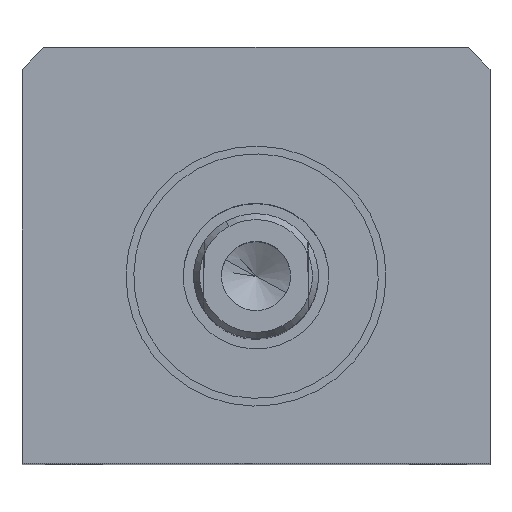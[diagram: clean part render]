
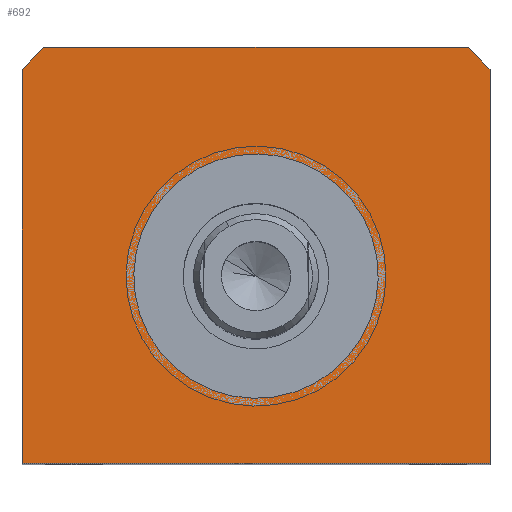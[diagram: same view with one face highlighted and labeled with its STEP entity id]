
A CAD part, top view. The second image highlights one B-rep face of the part: STEP entity #692.
In plain terms, the highlighted planar face has unit normal (0, 0, 1).
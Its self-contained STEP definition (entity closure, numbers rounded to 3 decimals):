
#119=CARTESIAN_POINT('Vertex',(22.5,-18.,73.)) ;
#124=CARTESIAN_POINT('Line Origine',(0.,-18.,73.)) ;
#128=CARTESIAN_POINT('Vertex',(-22.5,-18.,73.)) ;
#371=CARTESIAN_POINT('Vertex',(-5.633,10.312,73.)) ;
#378=CARTESIAN_POINT('Vertex',(5.633,-10.312,73.)) ;
#381=CARTESIAN_POINT('Axis2P3D Location',(0.,0.,73.)) ;
#393=CARTESIAN_POINT('Axis2P3D Location',(0.,0.,73.)) ;
#642=CARTESIAN_POINT('Axis2P3D Location',(0.,30.,73.)) ;
#647=CARTESIAN_POINT('Line Origine',(0.,22.,73.)) ;
#651=CARTESIAN_POINT('Vertex',(20.396,22.,73.)) ;
#653=CARTESIAN_POINT('Vertex',(-20.396,22.,73.)) ;
#656=CARTESIAN_POINT('Axis2P3D Location',(0.,0.,73.)) ;
#660=CARTESIAN_POINT('Vertex',(-22.5,19.843,73.)) ;
#663=CARTESIAN_POINT('Line Origine',(-22.5,0.922,73.)) ;
#668=CARTESIAN_POINT('Line Origine',(22.5,0.922,73.)) ;
#672=CARTESIAN_POINT('Vertex',(22.5,19.843,73.)) ;
#675=CARTESIAN_POINT('Axis2P3D Location',(0.,0.,73.)) ;
#125=DIRECTION('Vector Direction',(-1.,0.,0.)) ;
#382=DIRECTION('Axis2P3D Direction',(0.,0.,1.)) ;
#394=DIRECTION('Axis2P3D Direction',(0.,0.,1.)) ;
#643=DIRECTION('Axis2P3D Direction',(0.,0.,1.)) ;
#644=DIRECTION('Axis2P3D XDirection',(1.,0.,0.)) ;
#648=DIRECTION('Vector Direction',(1.,0.,0.)) ;
#657=DIRECTION('Axis2P3D Direction',(0.,0.,1.)) ;
#664=DIRECTION('Vector Direction',(0.,-1.,0.)) ;
#669=DIRECTION('Vector Direction',(0.,1.,0.)) ;
#676=DIRECTION('Axis2P3D Direction',(0.,0.,1.)) ;
#383=AXIS2_PLACEMENT_3D('Circle Axis2P3D',#381,#382,$) ;
#395=AXIS2_PLACEMENT_3D('Circle Axis2P3D',#393,#394,$) ;
#645=AXIS2_PLACEMENT_3D('Plane Axis2P3D',#642,#643,#644) ;
#658=AXIS2_PLACEMENT_3D('Circle Axis2P3D',#656,#657,$) ;
#677=AXIS2_PLACEMENT_3D('Circle Axis2P3D',#675,#676,$) ;
#681=ORIENTED_EDGE('',*,*,#655,.T.) ;
#682=ORIENTED_EDGE('',*,*,#662,.T.) ;
#683=ORIENTED_EDGE('',*,*,#667,.T.) ;
#684=ORIENTED_EDGE('',*,*,#130,.T.) ;
#685=ORIENTED_EDGE('',*,*,#674,.T.) ;
#686=ORIENTED_EDGE('',*,*,#679,.T.) ;
#689=ORIENTED_EDGE('',*,*,#397,.F.) ;
#690=ORIENTED_EDGE('',*,*,#385,.F.) ;
#691=FACE_BOUND('',#688,.T.) ;
#126=VECTOR('Line Direction',#125,1.) ;
#649=VECTOR('Line Direction',#648,1.) ;
#665=VECTOR('Line Direction',#664,1.) ;
#670=VECTOR('Line Direction',#669,1.) ;
#692=ADVANCED_FACE('PartBody',(#687,#691),#646,.T.) ;
#384=CIRCLE('generated circle',#383,11.75) ;
#396=CIRCLE('generated circle',#395,11.75) ;
#659=CIRCLE('generated circle',#658,30.) ;
#678=CIRCLE('generated circle',#677,30.) ;
#130=EDGE_CURVE('',#129,#120,#127,.F.) ;
#385=EDGE_CURVE('',#379,#372,#384,.T.) ;
#397=EDGE_CURVE('',#372,#379,#396,.T.) ;
#655=EDGE_CURVE('',#652,#654,#650,.F.) ;
#662=EDGE_CURVE('',#654,#661,#659,.T.) ;
#667=EDGE_CURVE('',#661,#129,#666,.T.) ;
#674=EDGE_CURVE('',#120,#673,#671,.T.) ;
#679=EDGE_CURVE('',#673,#652,#678,.T.) ;
#680=EDGE_LOOP('',(#681,#682,#683,#684,#685,#686)) ;
#688=EDGE_LOOP('',(#689,#690)) ;
#687=FACE_OUTER_BOUND('',#680,.T.) ;
#127=LINE('Line',#124,#126) ;
#650=LINE('Line',#647,#649) ;
#666=LINE('Line',#663,#665) ;
#671=LINE('Line',#668,#670) ;
#646=PLANE('Plane',#645) ;
#120=VERTEX_POINT('',#119) ;
#129=VERTEX_POINT('',#128) ;
#372=VERTEX_POINT('',#371) ;
#379=VERTEX_POINT('',#378) ;
#652=VERTEX_POINT('',#651) ;
#654=VERTEX_POINT('',#653) ;
#661=VERTEX_POINT('',#660) ;
#673=VERTEX_POINT('',#672) ;
